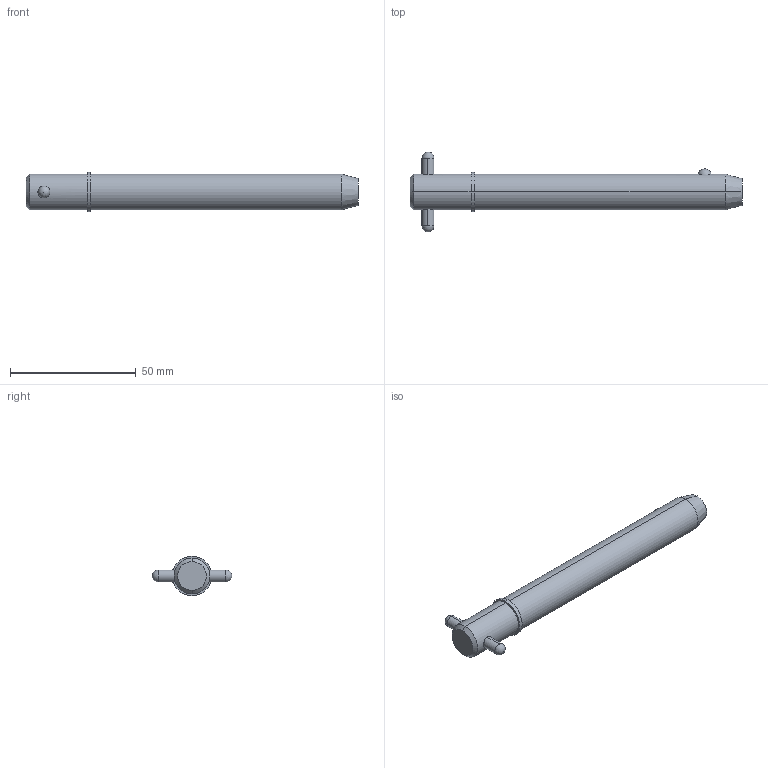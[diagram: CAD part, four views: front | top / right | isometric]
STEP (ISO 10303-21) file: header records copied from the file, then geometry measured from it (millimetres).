
FILE_DESCRIPTION (( 'STEP AP203' ), '1' );
FILE_NAME ('33018.W5635.step', '2024-11-19T17:16:58', ( '' ), ( '' ), 'SwSTEP 2.0', 'SolidWorks 2019', '' );
FILE_SCHEMA (( 'CONFIG_CONTROL_DESIGN' ));
Length unit declared in the file: millimetre
Products named in the file (3): 33018.W5635; Part1_33018.W5635; Part2_33018.W5635
Assembly tree (2 placements, depth 2):
  33018.W5635
    Part1_33018.W5635
    Part2_33018.W5635
Bounding box: 132.05 x 31.75 x 15.72 mm (x, y, z)
Volume: 21254.1 mm3; surface area: 6846.5 mm2
Topology: 2 solids, 2 shells, 22 faces, 47 edges, 30 vertices
Faces by surface type: cylinder 10, sphere 4, cone 4, plane 4
Entity records: 1033 total; most frequent: CARTESIAN_POINT 276, DIRECTION 110, ORIENTED_EDGE 82, AXIS2_PLACEMENT_3D 48, EDGE_CURVE 41, EDGE_LOOP 27, VERTEX_POINT 26, PERSON_AND_ORGANIZATION 26
